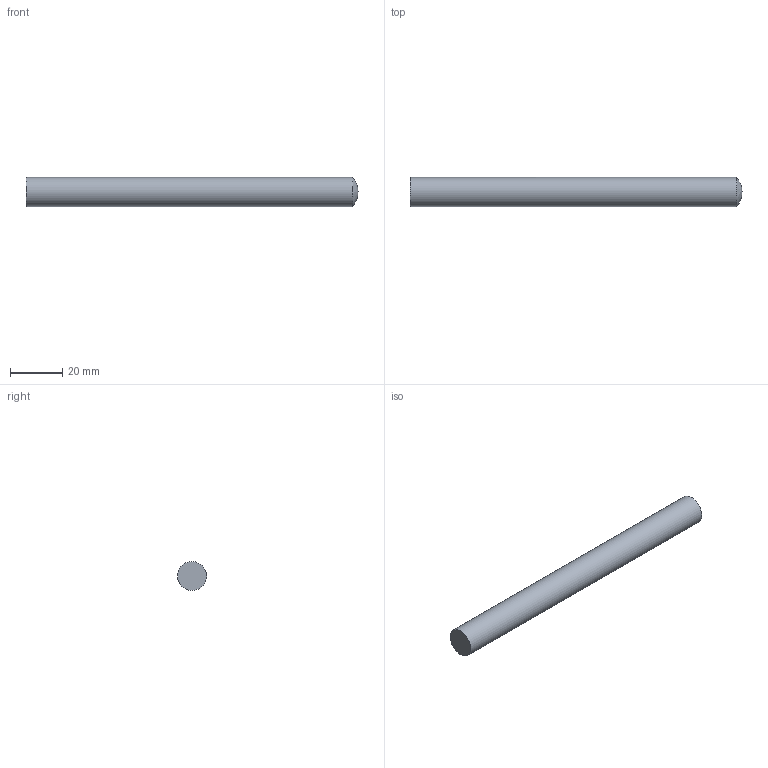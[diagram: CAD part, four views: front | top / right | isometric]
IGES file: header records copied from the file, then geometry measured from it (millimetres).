
Global section: file name: G1122-2; native system: Autodesk RealDWG; preprocessor: Autodesk Translation Framework DWG producer (atf_dwg_producer); organization: unknown; date: 20210811.174308; units: inch
Bounding box: 127 x 11.11 x 11.1 mm (x, y, z)
Volume: 12233 mm3; surface area: 4573.3 mm2
Topology: 1 solids, 1 shells, 3 faces, 6 edges, 4 vertices
Faces by surface type: bspline 3
